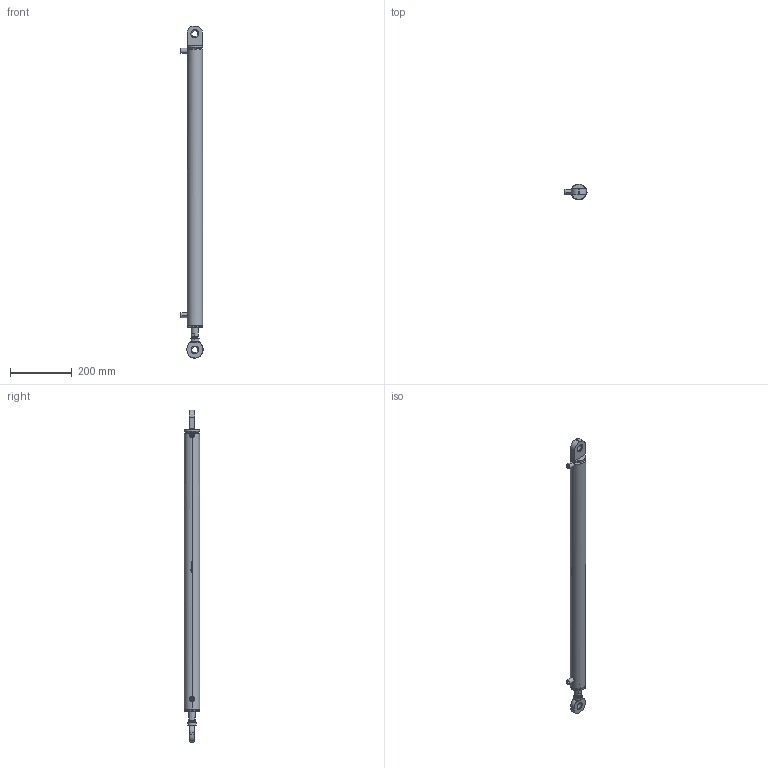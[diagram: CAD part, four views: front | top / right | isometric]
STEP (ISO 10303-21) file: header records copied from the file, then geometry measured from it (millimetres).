
FILE_DESCRIPTION (( 'STEP AP214' ), '1' );
FILE_NAME ('HC_A_40_22_800_ÖAMB_WEB.STEP', '2021-05-25T15:55:13', ( '' ), ( '' ), 'SwSTEP 2.0', 'SolidWorks 2021', '' );
FILE_SCHEMA (( 'AUTOMOTIVE_DESIGN' ));
Length unit declared in the file: millimetre
Products named in the file (10): RMK_RMK 20; HC_A_40_22_800_淲MB_WEB; TAK_TAK_40_50; KO-36X3; RMY__RMY_20; HC_A_22_K_MIL_WEB; HC_A_40_BORU_WEB; G1-4_Manson; TDK_TDK_40_22
Assembly tree (10 placements, depth 3):
  HC_A_40_22_800_淲MB_WEB
    HC_A_40_BORU_WEB
    HC_A_22_K_MIL_WEB
    TAK_TAK_40_50
    G1-4_Manson  x2
    TDK_TDK_40_22
      TDK_TDK_40_22
      KO-36X3
    RMK_RMK 20
    RMY__RMY_20
Bounding box: 71.2 x 50 x 1071.5 mm (x, y, z)
Volume: 809037 mm3; surface area: 303859.1 mm2
Topology: 9 solids, 9 shells, 325 faces, 808 edges, 509 vertices
Faces by surface type: plane 117, bspline 85, cylinder 73, cone 42, torus 8
Entity records: 15755 total; most frequent: CARTESIAN_POINT 6503, ORIENTED_EDGE 1592, DIRECTION 1300, EDGE_CURVE 796, VERTEX_POINT 501, AXIS2_PLACEMENT_3D 461, LINE 378, VECTOR 378
